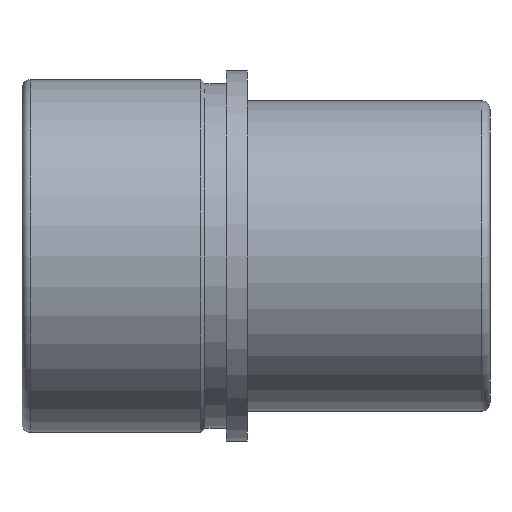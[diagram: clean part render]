
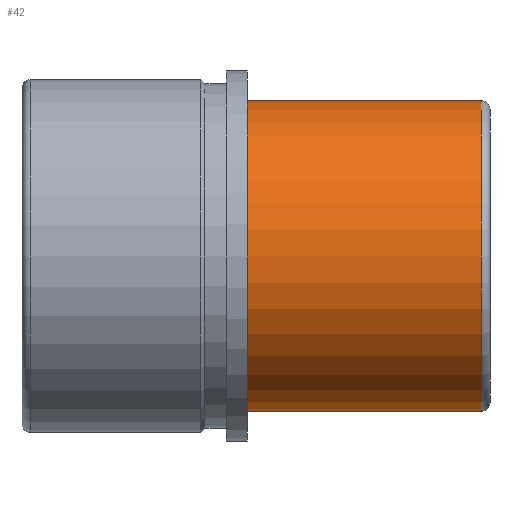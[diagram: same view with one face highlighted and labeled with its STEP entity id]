
A CAD part, front view. The second image highlights one B-rep face of the part: STEP entity #42.
In plain terms, the highlighted cylindrical face has radius 36.5 mm (diameter 73 mm), a full revolution.
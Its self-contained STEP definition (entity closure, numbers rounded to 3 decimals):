
#42 = ADVANCED_FACE( '', ( #91, #92 ), #93, .T. );
#91 = FACE_OUTER_BOUND( '', #154, .T. );
#92 = FACE_OUTER_BOUND( '', #155, .T. );
#93 = CYLINDRICAL_SURFACE( '', #156, 36.5 );
#154 = EDGE_LOOP( '', ( #215 ) );
#155 = EDGE_LOOP( '', ( #216 ) );
#156 = AXIS2_PLACEMENT_3D( '', #217, #218, #219 );
#215 = ORIENTED_EDGE( '', *, *, #292, .T. );
#216 = ORIENTED_EDGE( '', *, *, #290, .F. );
#217 = CARTESIAN_POINT( '', ( 57., 0., 0. ) );
#218 = DIRECTION( '', ( -1., 0., 0. ) );
#219 = DIRECTION( '', ( 0., 0., -1. ) );
#290 = EDGE_CURVE( '', #320, #320, #321, .T. );
#292 = EDGE_CURVE( '', #323, #323, #324, .T. );
#320 = VERTEX_POINT( '', #362 );
#321 = CIRCLE( '', #363, 36.5 );
#323 = VERTEX_POINT( '', #365 );
#324 = CIRCLE( '', #366, 36.5 );
#362 = CARTESIAN_POINT( '', ( 55., 0., -36.5 ) );
#363 = AXIS2_PLACEMENT_3D( '', #404, #405, #406 );
#365 = CARTESIAN_POINT( '', ( 0., 0., -36.5 ) );
#366 = AXIS2_PLACEMENT_3D( '', #407, #408, #409 );
#404 = CARTESIAN_POINT( '', ( 55., 0., 0. ) );
#405 = DIRECTION( '', ( 1., 0., 0. ) );
#406 = DIRECTION( '', ( 0., 0., -1. ) );
#407 = CARTESIAN_POINT( '', ( 0., 0., 0. ) );
#408 = DIRECTION( '', ( 1., 0., 0. ) );
#409 = DIRECTION( '', ( 0., 0., -1. ) );
